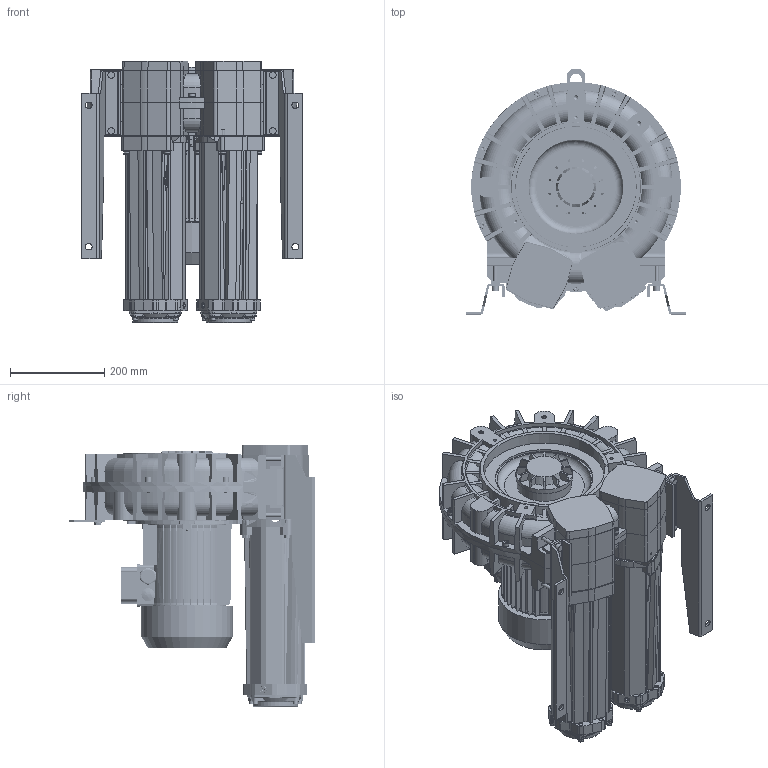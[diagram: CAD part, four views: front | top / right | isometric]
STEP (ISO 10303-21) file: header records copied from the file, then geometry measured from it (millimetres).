
FILE_DESCRIPTION (( 'STEP AP203' ), '1' );
FILE_NAME ('STP-L_e_07_MS_MOR_IE3WR_100_4.0kW-3_24-00.step', '2025-01-08T15:19:53', ( '' ), ( '' ), 'SwSTEP 2.0', 'SolidWorks 2024', '' );
FILE_SCHEMA (( 'CONFIG_CONTROL_DESIGN' ));
Products named in the file (1): STP-L_e_07_MS_MOR_IE3WR_100_4.0kW-3_24-00
Bounding box: 468 x 519 x 553 mm (x, y, z)
Volume: 34079726.9 mm3; surface area: 2399272.4 mm2
Topology: 89 solids, 97 shells, 5700 faces, 14484 edges, 9009 vertices
Faces by surface type: plane 2044, cylinder 1786, bspline 921, torus 454, cone 446, sphere 49
Full cylindrical faces by diameter (mm): 5 x16, 6 x28, 6.4 x12, 6.8 x12, 7 x4, 7.5 x4, 8 x24, 8.4 x20, 8.5 x7, 8.566 x2, 8.8 x4, 9 x8, 9.5 x4, 9.98 x2, 10 x26, 12 x2, 12.02 x2, 13 x27, 14 x14, 16 x5, 16.5 x2, 18 x2, 20 x1, 21.4 x1, 24 x4, 25 x4, 28 x1, 85.3 x2, 108 x2, 115 x2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
Entity records: 245771 total; most frequent: CARTESIAN_POINT 120273, ORIENTED_EDGE 27340, DIRECTION 24073, EDGE_CURVE 13670, AXIS2_PLACEMENT_3D 9256, VERTEX_POINT 8779, EDGE_LOOP 6469, FACE_OUTER_BOUND 6048
